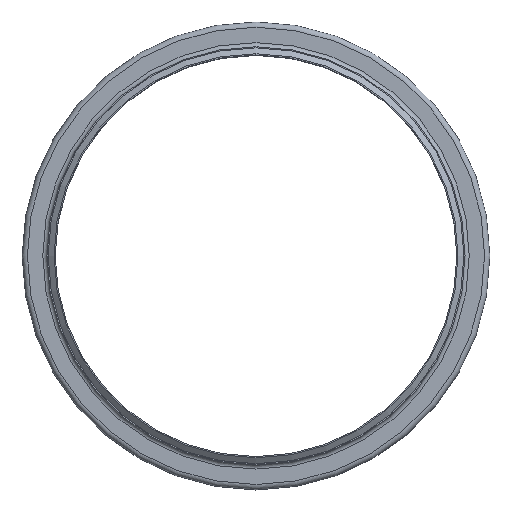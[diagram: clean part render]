
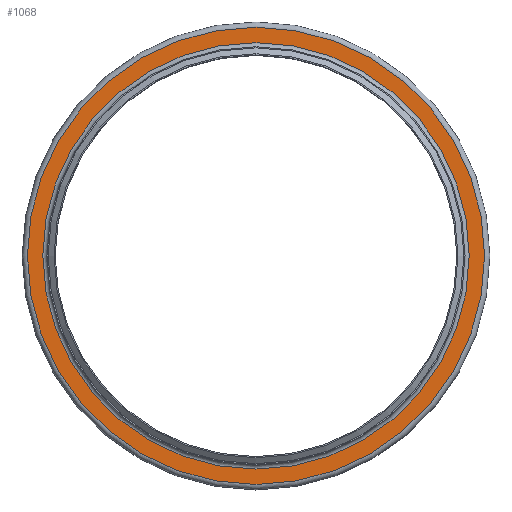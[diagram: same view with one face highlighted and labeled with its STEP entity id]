
A CAD part, top view. The second image highlights one B-rep face of the part: STEP entity #1068.
In plain terms, the highlighted planar face has unit normal (0, 0, 1).
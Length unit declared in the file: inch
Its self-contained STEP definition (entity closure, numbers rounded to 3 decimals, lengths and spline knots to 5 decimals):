
#102=FACE_BOUND('',#282,.T.);
#171=FACE_OUTER_BOUND('',#281,.T.);
#281=EDGE_LOOP('',(#824));
#282=EDGE_LOOP('',(#825));
#402=CIRCLE('',#1264,11.28);
#403=CIRCLE('',#1266,12.095);
#491=VERTEX_POINT('',#1935);
#492=VERTEX_POINT('',#1939);
#606=EDGE_CURVE('',#491,#491,#402,.T.);
#607=EDGE_CURVE('',#492,#492,#403,.T.);
#824=ORIENTED_EDGE('',*,*,#607,.F.);
#825=ORIENTED_EDGE('',*,*,#606,.T.);
#918=PLANE('',#1265);
#1068=ADVANCED_FACE('',(#171,#102),#918,.T.);
#1264=AXIS2_PLACEMENT_3D('',#1937,#1621,#1622);
#1265=AXIS2_PLACEMENT_3D('',#1938,#1623,#1624);
#1266=AXIS2_PLACEMENT_3D('',#1940,#1625,#1626);
#1621=DIRECTION('center_axis',(0.,0.,
-1.));
#1622=DIRECTION('ref_axis',(1.,0.,0.));
#1623=DIRECTION('center_axis',(0.,0.,
1.));
#1624=DIRECTION('ref_axis',(1.,0.,0.));
#1625=DIRECTION('center_axis',(0.,0.,
-1.));
#1626=DIRECTION('ref_axis',(1.,0.,0.));
#1935=CARTESIAN_POINT('',(11.28,0.,-1.72));
#1937=CARTESIAN_POINT('Origin',(0.,0.,
-1.72));
#1938=CARTESIAN_POINT('Origin',(0.,12.095,-1.72));
#1939=CARTESIAN_POINT('',(12.095,0.,-1.72));
#1940=CARTESIAN_POINT('Origin',(0.,0.,
-1.72));
